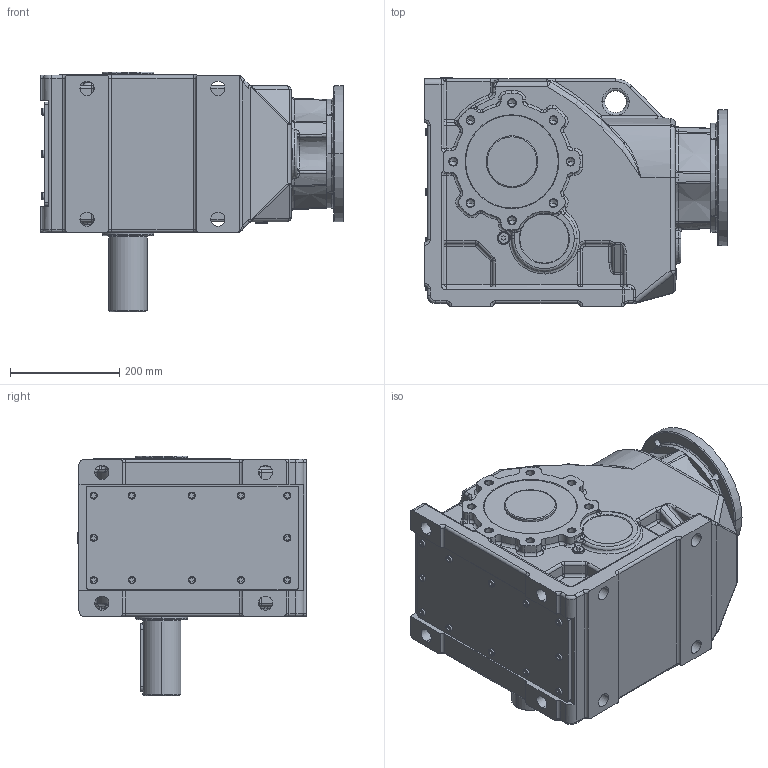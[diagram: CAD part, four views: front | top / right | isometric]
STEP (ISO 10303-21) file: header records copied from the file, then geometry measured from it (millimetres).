
FILE_DESCRIPTION (( 'STEP AP214' ), '1' );
FILE_NAME ('ktm73152-vollwelle-r-f215-ap100.step', '2011-10-05T06:36:28', ( '' ), ( '' ), 'SwSTEP 2.0', 'SolidWorks 2010', '' );
FILE_SCHEMA (( 'AUTOMOTIVE_DESIGN' ));
Length unit declared in the file: millimetre
Products named in the file (4): Šroub DIN 6912_Šroub DIN 6912 - M14x35; Pøíruba MTC72A kulatá _180-215-250; KTM73_KTM73-AP100-Vollwelle-R; ktm73152-vollwelle-r-f215-ap100
Assembly tree (8 placements, depth 2):
  ktm73152-vollwelle-r-f215-ap100
    KTM73_KTM73-AP100-Vollwelle-R
    Šroub DIN 6912_Šroub DIN 6912 - M14x35  x6
    Pøíruba MTC72A kulatá _180-215-250
Bounding box: 555 x 419.5 x 440 mm (x, y, z)
Volume: 47913312.5 mm3; surface area: 1194801.1 mm2
Topology: 8 solids, 8 shells, 1489 faces, 3483 edges, 1986 vertices
Faces by surface type: cylinder 490, plane 361, torus 280, cone 210, bspline 107, sphere 41
Entity records: 64604 total; most frequent: CARTESIAN_POINT 30023, DIRECTION 6782, ORIENTED_EDGE 6118, EDGE_CURVE 3059, AXIS2_PLACEMENT_3D 2801, VERTEX_POINT 1831, CIRCLE 1593, EDGE_LOOP 1414
